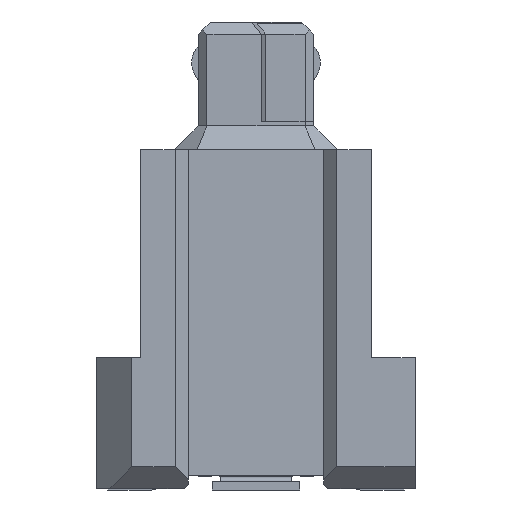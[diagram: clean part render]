
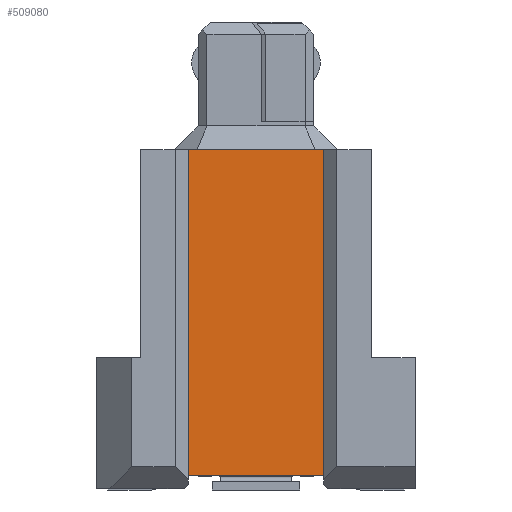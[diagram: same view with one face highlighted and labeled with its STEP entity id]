
A CAD part, left-side view. The second image highlights one B-rep face of the part: STEP entity #509080.
In plain terms, the highlighted planar face has unit normal (-1, 0, 0).
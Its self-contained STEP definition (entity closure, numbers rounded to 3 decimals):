
#217850=CARTESIAN_POINT('',(-5.032,2.41,4.2));
#217860=VERTEX_POINT('',#217850);
#217890=CARTESIAN_POINT('',(-5.032,2.41,0.));
#217900=DIRECTION('',(0.,0.,-1.));
#217910=VECTOR('',#217900,1.);
#217920=LINE('',#217890,#217910);
#217930=CARTESIAN_POINT('',(-5.032,2.41,1.1));
#217940=VERTEX_POINT('',#217930);
#217950=EDGE_CURVE('',#217860,#217940,#217920,.T.);
#492130=CARTESIAN_POINT('',(-5.032,-5.06,4.2));
#492140=VERTEX_POINT('',#492130);
#492170=CARTESIAN_POINT('',(-5.032,0.,4.2));
#492180=DIRECTION('',(0.,-1.,0.));
#492190=VECTOR('',#492180,1.);
#492200=LINE('',#492170,#492190);
#492210=EDGE_CURVE('',#217860,#492140,#492200,.T.);
#495070=CARTESIAN_POINT('',(-5.032,-5.06,1.1));
#495080=VERTEX_POINT('',#495070);
#495210=CARTESIAN_POINT('',(-5.032,-2.36,1.1));
#495220=DIRECTION('',(0.,1.,0.));
#495230=VECTOR('',#495220,1.);
#495240=LINE('',#495210,#495230);
#495250=EDGE_CURVE('',#495080,#217940,#495240,.T.);
#495360=CARTESIAN_POINT('',(-5.032,-5.06,0.));
#495370=DIRECTION('',(0.,0.,-1.));
#495380=VECTOR('',#495370,1.);
#495390=LINE('',#495360,#495380);
#495400=EDGE_CURVE('',#492140,#495080,#495390,.T.);
#508970=CARTESIAN_POINT('',(-5.032,-3.36,5.3));
#508980=DIRECTION('',(-1.,0.,0.));
#508990=DIRECTION('',(0.,1.,0.));
#509000=AXIS2_PLACEMENT_3D('',#508970,#508980,#508990);
#509010=PLANE('',#509000);
#509020=ORIENTED_EDGE('',*,*,#495400,.F.);
#509030=ORIENTED_EDGE('',*,*,#495250,.F.);
#509040=ORIENTED_EDGE('',*,*,#217950,.T.);
#509050=ORIENTED_EDGE('',*,*,#492210,.F.);
#509060=EDGE_LOOP('',(#509050,#509040,#509030,#509020));
#509070=FACE_OUTER_BOUND('',#509060,.T.);
#509080=ADVANCED_FACE('',(#509070),#509010,.T.);
